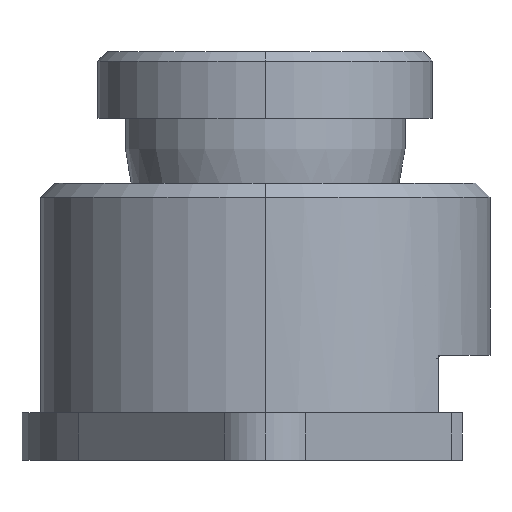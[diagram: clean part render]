
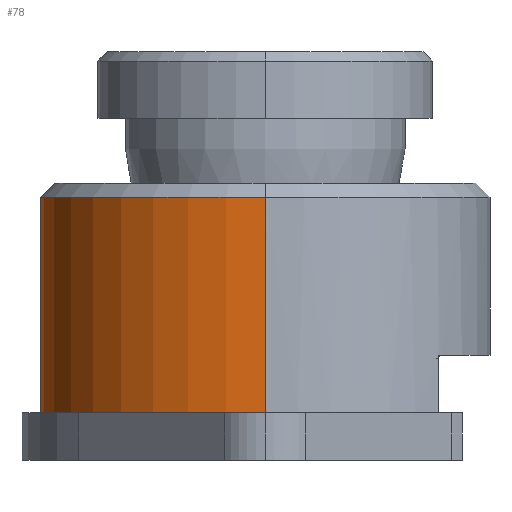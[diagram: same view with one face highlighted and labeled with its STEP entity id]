
A CAD part, left-side view. The second image highlights one B-rep face of the part: STEP entity #78.
In plain terms, the highlighted cylindrical face has radius 23.5 mm (diameter 47 mm), a partial arc.
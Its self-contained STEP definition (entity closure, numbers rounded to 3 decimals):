
#78=ADVANCED_FACE('',(#183),#184,.T.);
#183=FACE_OUTER_BOUND('',#347,.T.);
#184=CYLINDRICAL_SURFACE('',#348,23.5);
#347=EDGE_LOOP('',(#696,#697,#698,#699));
#348=AXIS2_PLACEMENT_3D('',#700,#701,#702);
#696=ORIENTED_EDGE('',*,*,#1123,.T.);
#697=ORIENTED_EDGE('',*,*,#1152,.T.);
#698=ORIENTED_EDGE('',*,*,#1124,.T.);
#699=ORIENTED_EDGE('',*,*,#1153,.T.);
#700=CARTESIAN_POINT('',(0.0,0.,13.75));
#701=DIRECTION('',(0.,0.,-1.0));
#702=DIRECTION('',(1.0,0.,0.));
#1123=EDGE_CURVE('',#1416,#1465,#1466,.T.);
#1124=EDGE_CURVE('',#1467,#1420,#1468,.T.);
#1152=EDGE_CURVE('',#1465,#1467,#1512,.T.);
#1153=EDGE_CURVE('',#1420,#1416,#1513,.T.);
#1416=VERTEX_POINT('',#1761);
#1420=VERTEX_POINT('',#1766);
#1465=VERTEX_POINT('',#1824);
#1466=LINE('',#1825,#1826);
#1467=VERTEX_POINT('',#1827);
#1468=LINE('',#1828,#1829);
#1512=CIRCLE('',#1954,23.5);
#1513=CIRCLE('',#1955,23.5);
#1761=CARTESIAN_POINT('',(23.5,0.,27.5));
#1766=CARTESIAN_POINT('',(-23.5,0.,27.5));
#1824=CARTESIAN_POINT('',(23.5,0.,5.));
#1825=CARTESIAN_POINT('',(23.5,0.,13.75));
#1826=VECTOR('',#2265,1.0);
#1827=CARTESIAN_POINT('',(-23.5,0.,5.));
#1828=CARTESIAN_POINT('',(-23.5,0.,13.75));
#1829=VECTOR('',#2266,1.0);
#1954=AXIS2_PLACEMENT_3D('',#2305,#2306,#2307);
#1955=AXIS2_PLACEMENT_3D('',#2308,#2309,#2310);
#2265=DIRECTION('',(0.0,0.,-1.0));
#2266=DIRECTION('',(-0.0,0.,1.0));
#2305=CARTESIAN_POINT('',(0.0,0.,5.));
#2306=DIRECTION('',(0.,0.0,1.0));
#2307=DIRECTION('',(1.0,0.,0.));
#2308=CARTESIAN_POINT('',(0.0,0.,27.5));
#2309=DIRECTION('',(0.,0.,-1.0));
#2310=DIRECTION('',(1.0,0.,0.));
